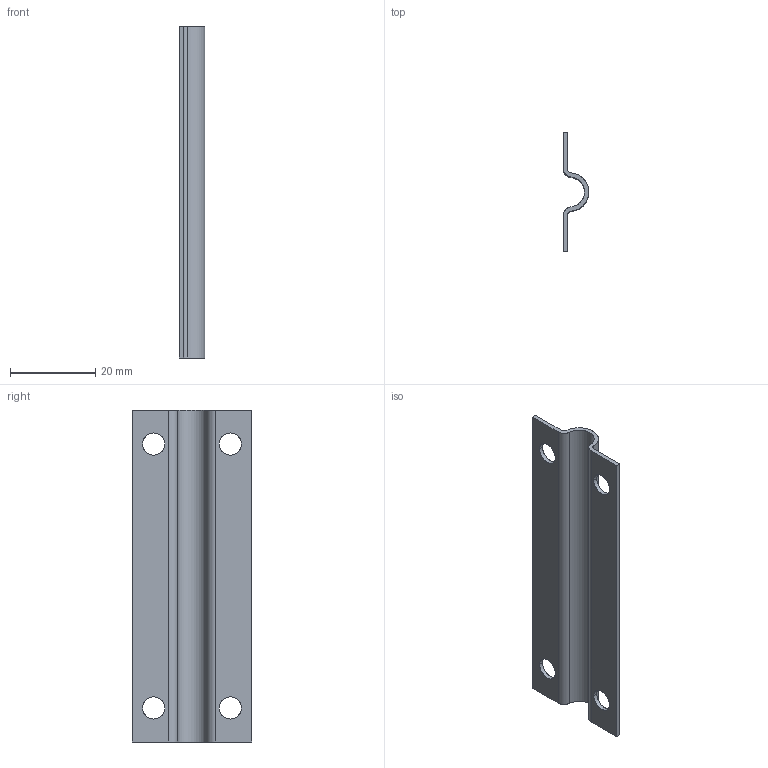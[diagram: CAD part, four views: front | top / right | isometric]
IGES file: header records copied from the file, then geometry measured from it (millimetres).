
Start section: SolidWorks IGES FILE using analytic representation for surfaces
Global section: file name: C:\Documents and Settings\lecoutey\Bureau\PX 399\PX 399 BR.IGS; native system: SolidWorks 2004 by SolidWorks Corporation; preprocessor: Version 5.3; author: lecoutey; date: 050408.172859; units: millimetre
Bounding box: 6 x 28 x 78 mm (x, y, z)
Surface area: 5316.5 mm2 (no closed solid volume)
Topology: 0 solids, 0 shells, 22 faces, 460 edges, 460 vertices
Faces by surface type: revolution 14, bspline 8
